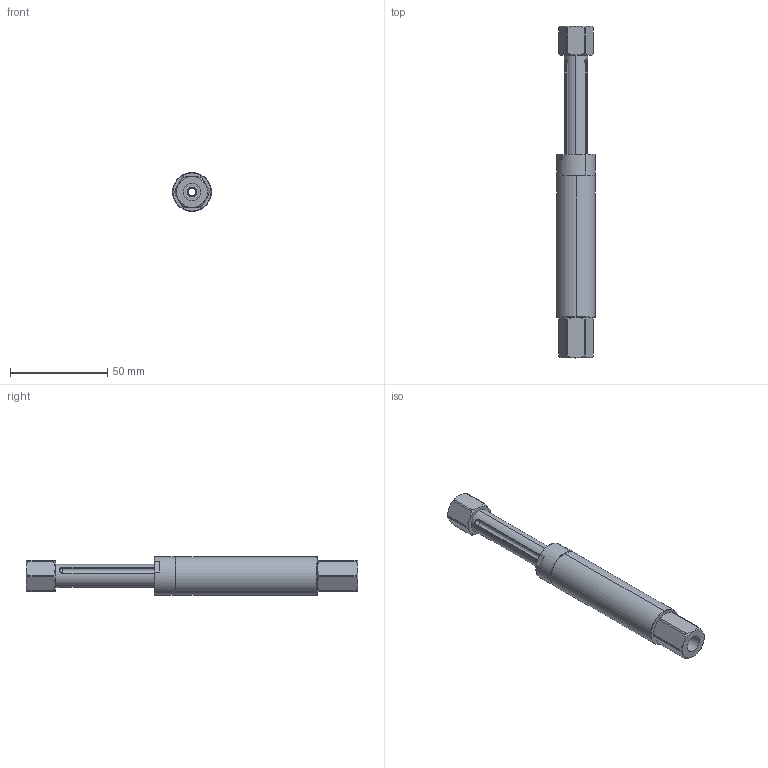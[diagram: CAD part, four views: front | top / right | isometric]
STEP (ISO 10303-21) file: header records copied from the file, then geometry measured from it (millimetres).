
FILE_DESCRIPTION (( 'STEP AP214' ), '1' );
FILE_NAME ('VFN2051-G18.STEP', '2019-11-15T05:40:22', ( '微软用户' ), ( '微软中国' ), 'SwSTEP 2.0', 'SolidWorks 2016', '' );
FILE_SCHEMA (( 'AUTOMOTIVE_DESIGN' ));
Length unit declared in the file: millimetre
Products named in the file (1): VFN2051-G18
Bounding box: 20 x 171 x 20 mm (x, y, z)
Volume: 33268.7 mm3; surface area: 21359.9 mm2
Topology: 4 solids, 4 shells, 242 faces, 565 edges, 345 vertices
Faces by surface type: cylinder 103, cone 75, plane 43, bspline 21
Entity records: 15252 total; most frequent: CARTESIAN_POINT 7204, ORIENTED_EDGE 1130, DIRECTION 1098, EDGE_CURVE 565, AXIS2_PLACEMENT_3D 451, VERTEX_POINT 345, EDGE_LOOP 270, UNCERTAINTY_MEASURE_WITH_UNIT 248
